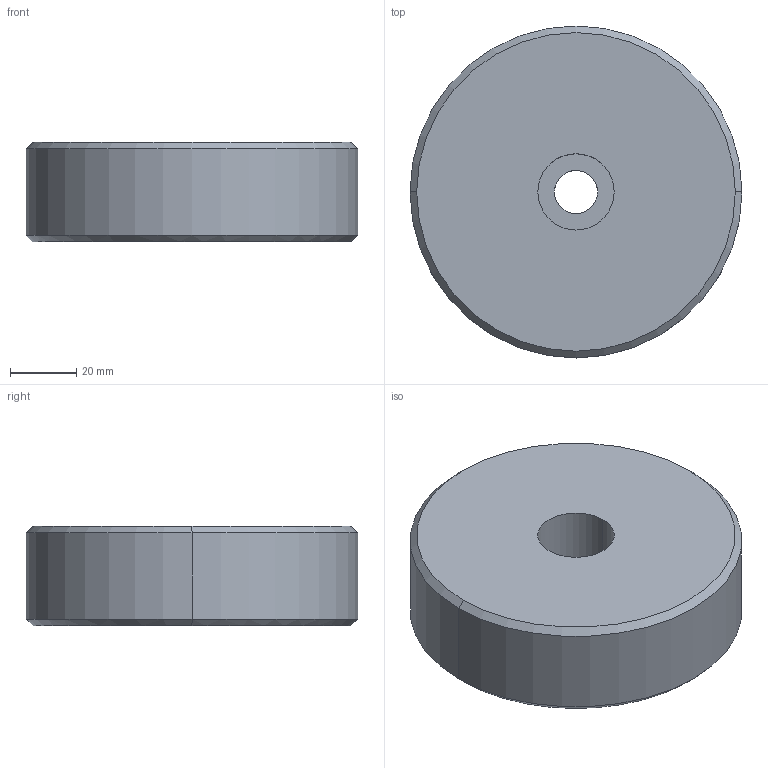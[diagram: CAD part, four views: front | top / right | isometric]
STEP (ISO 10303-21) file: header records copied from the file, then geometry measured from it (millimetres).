
FILE_DESCRIPTION(('CATIA V5 STEP Exchange'),'2;1');
FILE_NAME('C:\Users\Utente\Desktop\IO LAVORO\3D X SITO CF\X 3D SITO CF 27-09-2020\703\703.2.stp','2020-10-25T12:34:15+00:00',('none'),('none'),'CATIA Version 5 Release 20 GA (IN-10)','CATIA V5 STEP AP203','none');
FILE_SCHEMA(('CONFIG_CONTROL_DESIGN'));
Length unit declared in the file: millimetre
Products named in the file (1): 703.2
Bounding box: 100 x 100 x 30 mm (x, y, z)
Volume: 225308.2 mm3; surface area: 25911.5 mm2
Topology: 1 solids, 1 shells, 13 faces, 26 edges, 16 vertices
Faces by surface type: cylinder 6, cone 4, plane 3
Entity records: 458 total; most frequent: CARTESIAN_POINT 148, ORIENTED_EDGE 52, DIRECTION 48, AXIS2_PLACEMENT_3D 26, EDGE_CURVE 26, EDGE_LOOP 16, VERTEX_POINT 16, ADVANCED_FACE 13
